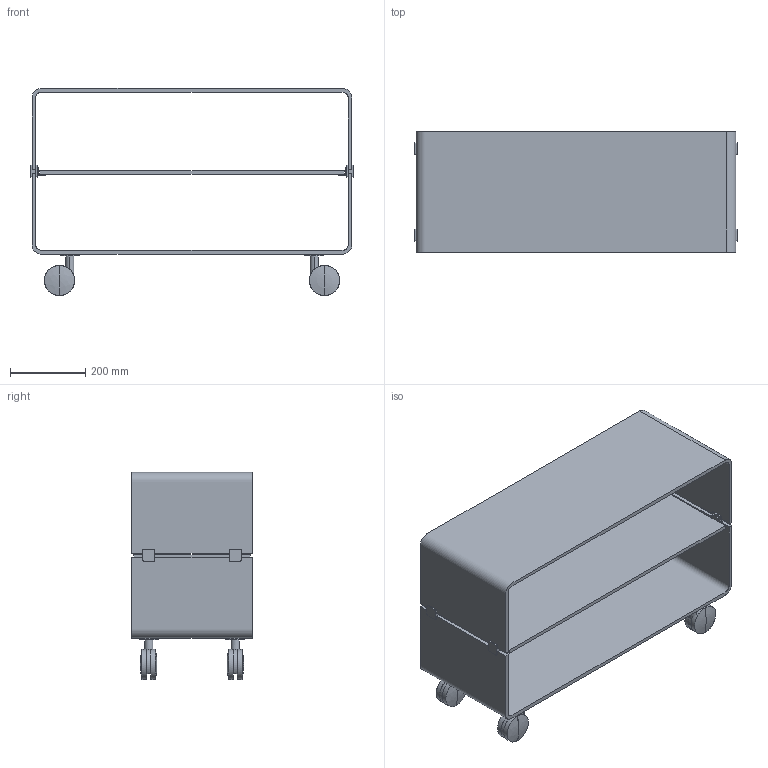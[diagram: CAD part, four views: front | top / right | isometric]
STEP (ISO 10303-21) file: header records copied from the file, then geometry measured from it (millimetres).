
FILE_DESCRIPTION(/* description */ (''),/* implementation_level */ '2;1');
FILE_NAME(/* name */ '270.631 - C&C Side 58x32 ruote',/* time_stamp */ '2010-11-04T12:33:26+01:00',/* author */ (''),/* organization */ (''),/* preprocessor_version */ 'ST-DEVELOPER v10',/* originating_system */ '',/* authorisation */ '');
FILE_SCHEMA (('CONFIG_CONTROL_DESIGN'));
Length unit declared in the file: centimetre
Products named in the file (1): 1
Bounding box: 858 x 320 x 550 mm (x, y, z)
Volume: 9846893.9 mm3; surface area: 2477098.1 mm2
Topology: 43 solids, 43 shells, 260 faces, 554 edges, 348 vertices
Faces by surface type: plane 154, bspline 106
Entity records: 6726 total; most frequent: CARTESIAN_POINT 3068, ORIENTED_EDGE 1044, EDGE_CURVE 522, VERTEX_POINT 348, B_SPLINE_CURVE_WITH_KNOTS 326, ADVANCED_FACE 260, FACE_OUTER_BOUND 260, EDGE_LOOP 260
